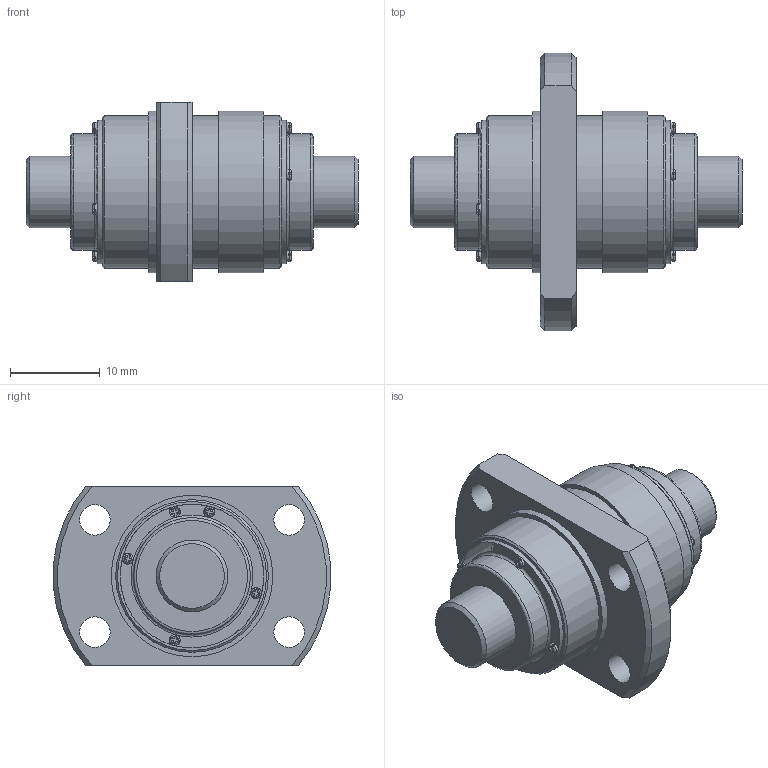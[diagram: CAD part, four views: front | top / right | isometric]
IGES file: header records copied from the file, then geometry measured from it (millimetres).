
Start section: Data from Parasolid IGES Translator 26.0.171, Copyright(c) 2006 Siemens PLM Software. All Rights Reserved.
Global section: file name: BLK0808-3.2ZZ+37LC7T_000.igs; native system: By Siemens PLM Incorporated; preprocessor: XPlus GENERIC/IGES 26.0.171; author: Noname; organization: Noname; date: 20250611.062258; units: millimetre
Bounding box: 37 x 30.91 x 20 mm (x, y, z)
Surface area: 4387.9 mm2 (no closed solid volume)
Topology: 0 solids, 0 shells, 242 faces, 1326 edges, 1288 vertices
Faces by surface type: extrusion 125, revolution 117
